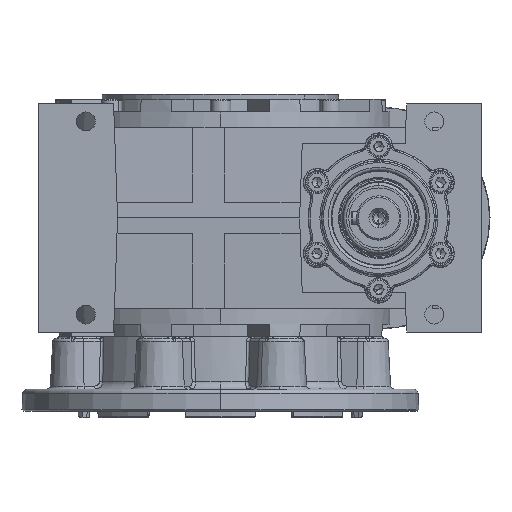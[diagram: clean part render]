
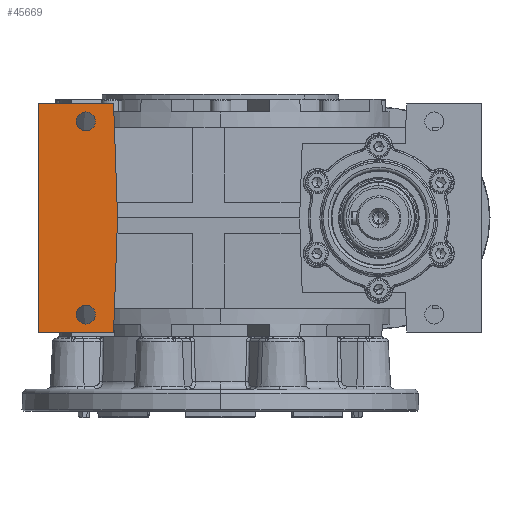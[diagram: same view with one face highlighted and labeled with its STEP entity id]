
A CAD part, left-side view. The second image highlights one B-rep face of the part: STEP entity #45669.
In plain terms, the highlighted planar face has unit normal (-1, 0, 0).
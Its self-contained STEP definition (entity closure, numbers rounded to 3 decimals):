
#274 = CARTESIAN_POINT ( 'NONE',  ( -115., 115., -72. ) ) ;
#397 = CARTESIAN_POINT ( 'NONE',  ( -115., 67.514, -72. ) ) ;
#2873 = DIRECTION ( 'NONE',  ( 0., -1., 0. ) ) ;
#4946 = PLANE ( 'NONE',  #42599 ) ;
#5925 = ORIENTED_EDGE ( 'NONE', *, *, #50772, .F. ) ;
#7013 = VERTEX_POINT ( 'NONE', #80555 ) ;
#7392 = VERTEX_POINT ( 'NONE', #274 ) ;
#8565 = LINE ( 'NONE', #21747, #10394 ) ;
#9992 = CARTESIAN_POINT ( 'NONE',  ( -115., 115., 72. ) ) ;
#10284 = VECTOR ( 'NONE', #60642, 1000. ) ;
#10394 = VECTOR ( 'NONE', #57454, 1000. ) ;
#11763 = ORIENTED_EDGE ( 'NONE', *, *, #54086, .F. ) ;
#12807 = CARTESIAN_POINT ( 'NONE',  ( -115., 85., -61. ) ) ;
#12950 = EDGE_CURVE ( 'NONE', #71800, #35174, #57830, .T. ) ;
#14176 = DIRECTION ( 'NONE',  ( 0., -1., 0. ) ) ;
#16138 = DIRECTION ( 'NONE',  ( -1., 0., 0. ) ) ;
#18646 = ORIENTED_EDGE ( 'NONE', *, *, #73307, .F. ) ;
#19075 = CIRCLE ( 'NONE', #34105, 6. ) ;
#19297 = AXIS2_PLACEMENT_3D ( 'NONE', #12807, #41485, #14176 ) ;
#21747 = CARTESIAN_POINT ( 'NONE',  ( -115., 65., 0. ) ) ;
#22226 = EDGE_LOOP ( 'NONE', ( #26923, #73595, #5925, #36098, #84447 ) ) ;
#25577 = DIRECTION ( 'NONE',  ( 0., -1., 0. ) ) ;
#25621 = FACE_OUTER_BOUND ( 'NONE', #22226, .T. ) ;
#26923 = ORIENTED_EDGE ( 'NONE', *, *, #59460, .T. ) ;
#29481 = EDGE_CURVE ( 'NONE', #31522, #58132, #76393, .T. ) ;
#30377 = EDGE_CURVE ( 'NONE', #7013, #44261, #8565, .T. ) ;
#31179 = CARTESIAN_POINT ( 'NONE',  ( -115., 85., 61. ) ) ;
#31522 = VERTEX_POINT ( 'NONE', #86482 ) ;
#32239 = CIRCLE ( 'NONE', #66782, 6. ) ;
#32315 = AXIS2_PLACEMENT_3D ( 'NONE', #31179, #16138, #59846 ) ;
#33769 = VECTOR ( 'NONE', #55116, 1000. ) ;
#34105 = AXIS2_PLACEMENT_3D ( 'NONE', #81347, #79964, #2873 ) ;
#35174 = VERTEX_POINT ( 'NONE', #48707 ) ;
#36098 = ORIENTED_EDGE ( 'NONE', *, *, #64582, .F. ) ;
#38563 = CARTESIAN_POINT ( 'NONE',  ( -115., 65., 0. ) ) ;
#40058 = VERTEX_POINT ( 'NONE', #83678 ) ;
#40068 = CARTESIAN_POINT ( 'NONE',  ( -115., 79., -61. ) ) ;
#41485 = DIRECTION ( 'NONE',  ( -1., 0., 0. ) ) ;
#42599 = AXIS2_PLACEMENT_3D ( 'NONE', #83417, #54285, #82931 ) ;
#44261 = VERTEX_POINT ( 'NONE', #397 ) ;
#45087 = VECTOR ( 'NONE', #77315, 1000. ) ;
#45669 = ADVANCED_FACE ( 'NONE', ( #83888, #69314, #25621 ), #4946, .T. ) ;
#47488 = LINE ( 'NONE', #38563, #10284 ) ;
#48512 = DIRECTION ( 'NONE',  ( 0., 0., 1. ) ) ;
#48624 = CARTESIAN_POINT ( 'NONE',  ( -115., 65., -72. ) ) ;
#48707 = CARTESIAN_POINT ( 'NONE',  ( -115., 79., 61. ) ) ;
#49191 = EDGE_CURVE ( 'NONE', #40058, #54253, #74408, .T. ) ;
#50772 = EDGE_CURVE ( 'NONE', #7392, #40058, #90823, .T. ) ;
#51406 = VECTOR ( 'NONE', #48512, 1000. ) ;
#52144 = ORIENTED_EDGE ( 'NONE', *, *, #12950, .F. ) ;
#54086 = EDGE_CURVE ( 'NONE', #35174, #71800, #32239, .T. ) ;
#54253 = VERTEX_POINT ( 'NONE', #58299 ) ;
#54285 = DIRECTION ( 'NONE',  ( -1., 0., 0. ) ) ;
#55116 = DIRECTION ( 'NONE',  ( 0., -1., 0. ) ) ;
#56103 = DIRECTION ( 'NONE',  ( -1., 0., 0. ) ) ;
#57454 = DIRECTION ( 'NONE',  ( 0., 0.035, -0.999 ) ) ;
#57830 = CIRCLE ( 'NONE', #32315, 6. ) ;
#58118 = EDGE_LOOP ( 'NONE', ( #18646, #60020 ) ) ;
#58132 = VERTEX_POINT ( 'NONE', #40068 ) ;
#58299 = CARTESIAN_POINT ( 'NONE',  ( -115., 67.514, 72. ) ) ;
#58873 = EDGE_LOOP ( 'NONE', ( #11763, #52144 ) ) ;
#59460 = EDGE_CURVE ( 'NONE', #7013, #54253, #47488, .T. ) ;
#59846 = DIRECTION ( 'NONE',  ( 0., -1., 0. ) ) ;
#60020 = ORIENTED_EDGE ( 'NONE', *, *, #29481, .F. ) ;
#60642 = DIRECTION ( 'NONE',  ( 0., 0.035, 0.999 ) ) ;
#61753 = CARTESIAN_POINT ( 'NONE',  ( -115., 85., 61. ) ) ;
#64582 = EDGE_CURVE ( 'NONE', #44261, #7392, #90448, .T. ) ;
#66782 = AXIS2_PLACEMENT_3D ( 'NONE', #61753, #56103, #25577 ) ;
#67328 = CARTESIAN_POINT ( 'NONE',  ( -115., 91., 61. ) ) ;
#69314 = FACE_BOUND ( 'NONE', #58873, .T. ) ;
#71800 = VERTEX_POINT ( 'NONE', #67328 ) ;
#73307 = EDGE_CURVE ( 'NONE', #58132, #31522, #19075, .T. ) ;
#73595 = ORIENTED_EDGE ( 'NONE', *, *, #49191, .F. ) ;
#74408 = LINE ( 'NONE', #9992, #33769 ) ;
#76393 = CIRCLE ( 'NONE', #19297, 6. ) ;
#77315 = DIRECTION ( 'NONE',  ( 0., 1., 0. ) ) ;
#79964 = DIRECTION ( 'NONE',  ( -1., 0., 0. ) ) ;
#80555 = CARTESIAN_POINT ( 'NONE',  ( -115., 65., 0. ) ) ;
#81106 = CARTESIAN_POINT ( 'NONE',  ( -115., 115., -78. ) ) ;
#81347 = CARTESIAN_POINT ( 'NONE',  ( -115., 85., -61. ) ) ;
#82931 = DIRECTION ( 'NONE',  ( 0., -1., 0. ) ) ;
#83417 = CARTESIAN_POINT ( 'NONE',  ( -115., 115., -78. ) ) ;
#83678 = CARTESIAN_POINT ( 'NONE',  ( -115., 115., 72. ) ) ;
#83888 = FACE_BOUND ( 'NONE', #58118, .T. ) ;
#84447 = ORIENTED_EDGE ( 'NONE', *, *, #30377, .F. ) ;
#86482 = CARTESIAN_POINT ( 'NONE',  ( -115., 91., -61. ) ) ;
#90448 = LINE ( 'NONE', #48624, #45087 ) ;
#90823 = LINE ( 'NONE', #81106, #51406 ) ;
